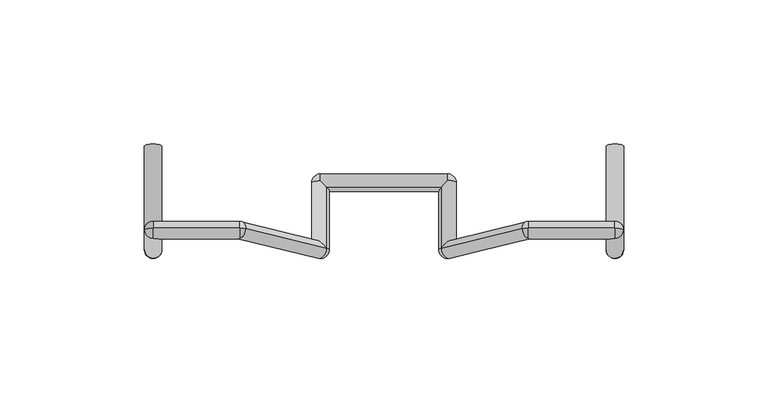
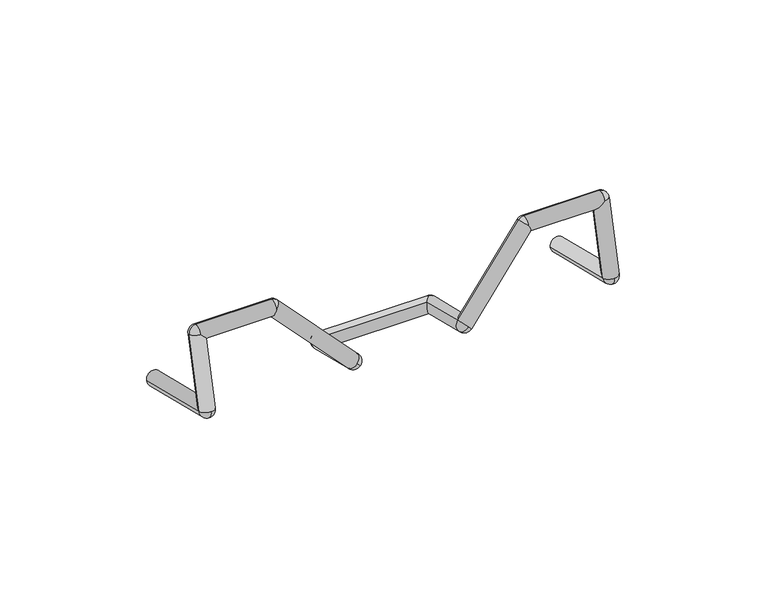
"""IFC4 building model written with IfcOpenShell, lengths in millimetres: furniture geometry."""

from ifc_helpers import new_model, si_unit, point, frame, origin, place, context, project, spatial, circle_curve, ellipse_curve, trimmed, source, transform, mapped, element, save
from ifc_brep_helpers import plane_surface, cylinder_surface, revolved_surface, advanced_brep


def furniture_9b158ec6(model_context):
    return source(origin(), model_context, "Body", "AdvancedBrep", [
        advanced_brep(
        [(-79.9995394, -261.9406341, 451.0660528), (-79.9995394, -264.144767, 454.6912146), (-82.9995394, -261.2301197, 453.9807002), (-82.9995394, -254.3618134, 482.1556247), (-79.9995394, -253.651299, 485.070272), (-79.9995394, -251.4471661, 481.4451102), (-50.0045138, -253.651299, 485.070272), (-47.8464944, -253.8682486, 484.1803088), (-50.0045138, -251.4471661, 481.4451102), (-21.9995394, -264.144767, 454.6912146), (-19.9155642, -261.741221, 451.8840783), (-19.84152, -260.7365549, 456.0053844), (-24.9995394, -237.9129408, 448.2965847), (-21.9995394, -234.9982934, 447.5860702), (-21.9995394, -236.3098837, 445.7607992), (-21.9995394, -238.6234552, 445.3819373), (-24.1575588, -238.4065056, 446.2719005), (22.0004606, -234.9982934, 447.5860702), (25.0004606, -237.9129408, 448.2965847), (24.15848, -238.4065056, 446.2719005), (22.0004606, -238.6234552, 445.3819373), (22.0004606, -236.3098837, 445.7607992), (19.9164855, -261.741221, 451.8840783), (22.0004606, -264.144767, 454.6912146), (19.8424412, -260.7365549, 456.0053844), (47.8474157, -253.8682486, 484.1803088), (50.0054351, -253.651299, 485.070272), (50.0054351, -251.4471661, 481.4451102), (80.0004606, -253.651299, 485.070272), (83.0004606, -254.3618134, 482.1556247), (80.0004606, -251.4471661, 481.4451102), (80.0004606, -264.144767, 454.6912146), (80.0004606, -261.9406341, 451.0660528), (83.0004606, -261.2301197, 453.9807002), (-82.9995394, -225.2828022, 445.2176888), (-76.9995394, -225.2828022, 445.2176888), (-76.9995394, -261.2301197, 453.9807002), (-76.9995394, -255.0723279, 479.2409773), (-79.9995394, -257.2764608, 482.8661391), (-51.2779383, -255.0723279, 479.2409773), (-50.0045138, -257.2764608, 482.8661391), (-24.1575588, -261.7236845, 451.956016), (-19.84152, -239.5159978, 450.8323702), (19.8424412, -239.5159978, 450.8323702), (24.15848, -261.7236845, 451.956016), (51.2788596, -255.0723279, 479.2409773), (50.0054351, -257.2764608, 482.8661391), (77.0004606, -255.0723279, 479.2409773), (80.0004606, -257.2764608, 482.8661391), (77.0004606, -261.2301197, 453.9807002), (83.0004606, -225.2828022, 445.2176888), (77.0004606, -225.2828022, 445.2176888), (22.0004606, -237.2024264, 451.211232), (-21.9995394, -237.2024264, 451.211232)],
        [
            (0, 1, circle_curve(frame((-79.9995394, -261.2301197, 453.9807002), z_axis=(-1.0, 0.0, 0.0), x_axis=(0.0, 0.23683814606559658, 0.9715491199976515)), 3.0)),
            (1, 2, circle_curve(frame((-79.9995394, -261.2301197, 453.9807002), z_axis=(0.0, -0.23683814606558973, -0.9715491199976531), x_axis=(0.0, -0.9715491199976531, 0.23683814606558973)), 3.0)),
            (2, 0, circle_curve(frame((-79.9995394, -261.2301197, 453.9807002), z_axis=(0.0, -0.9715491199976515, 0.2368381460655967), x_axis=(0.0, -0.2368381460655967, -0.9715491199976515)), 3.0)),
            (3, 4, circle_curve(frame((-79.9995394, -254.3618134, 482.1556247), z_axis=(0.0, 0.971549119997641, -0.23683814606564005), x_axis=(1.0, 0.0, 0.0)), 3.0)),
            (4, 5, circle_curve(frame((-79.9995394, -254.3618134, 482.1556247), z_axis=(-1.0, 0.0, 0.0), x_axis=(0.0, 0.23683814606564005, 0.971549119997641)), 3.0)),
            (5, 3, circle_curve(frame((-79.9995394, -254.3618134, 482.1556247), z_axis=(0.0, 0.23683814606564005, 0.971549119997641), x_axis=(-1.0, 0.0, 0.0)), 3.0)),
            (6, 7, circle_curve(frame((-50.0045138, -254.3618134, 482.1556247), z_axis=(0.0, 0.971549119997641, -0.23683814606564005), x_axis=(0.0, -0.23683814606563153, -0.971549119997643)), 3.0)),
            (7, 8, circle_curve(frame((-50.0045138, -254.3618134, 482.1556247), z_axis=(-0.6946583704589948, 0.17036710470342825, 0.6988739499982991), x_axis=(0.7193398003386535, 0.16452160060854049, 0.6748947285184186)), 3.0)),
            (8, 6, circle_curve(frame((-50.0045138, -254.3618134, 482.1556247), z_axis=(1.0, 0.0, 0.0), x_axis=(0.0, 0.23683814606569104, 0.9715491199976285)), 3.0)),
            (9, 10, circle_curve(frame((-21.9995394, -261.2301197, 453.9807002), z_axis=(0.7193398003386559, 0.16452160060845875, 0.6748947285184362), x_axis=(0.0, 0.971549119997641, -0.23683814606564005)), 3.0)),
            (10, 11, circle_curve(frame((-21.9995394, -261.2301197, 453.9807002), z_axis=(0.0, -0.9715491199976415, 0.2368381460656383), x_axis=(0.6946583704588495, -0.17036710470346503, -0.6988739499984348)), 3.0)),
            (11, 9, circle_curve(frame((-21.9995394, -261.2301197, 453.9807002), z_axis=(0.6946583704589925, -0.17036710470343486, -0.6988739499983), x_axis=(0.0, -0.9715491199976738, 0.2368381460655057)), 3.0)),
            (12, 13, circle_curve(frame((-21.9995394, -237.9129408, 448.2965847), z_axis=(0.0, -0.23683814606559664, -0.9715491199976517), x_axis=(-1.0, 0.0, 0.0)), 3.0)),
            (13, 14, circle_curve(frame((-21.9995394, -237.9129408, 448.2965847), z_axis=(-1.0, 0.0, 0.0), x_axis=(0.0, 0.9715491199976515, -0.23683814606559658)), 3.0)),
            (14, 15, circle_curve(frame((-21.9995394, -237.9129408, 448.2965847), z_axis=(-1.0, 0.0, 0.0), x_axis=(0.0, 0.9715491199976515, -0.23683814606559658)), 3.0)),
            (15, 16, circle_curve(frame((-21.9995394, -237.9129408, 448.2965847), z_axis=(0.0, 0.9715491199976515, -0.23683814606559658), x_axis=(-1.0, 0.0, 0.0)), 3.0)),
            (16, 12, circle_curve(frame((-21.9995394, -237.9129408, 448.2965847), z_axis=(0.0, 0.9715491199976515, -0.23683814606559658), x_axis=(-1.0, 0.0, 0.0)), 3.0)),
            (17, 18, circle_curve(frame((22.0004606, -237.9129408, 448.2965847), z_axis=(0.0, -0.23683814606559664, -0.9715491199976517), x_axis=(0.0, -0.971549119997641, 0.23683814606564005)), 3.0)),
            (18, 19, circle_curve(frame((22.0004606, -237.9129408, 448.2965847), z_axis=(0.0, 0.971549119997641, -0.23683814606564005), x_axis=(1.0, 0.0, 0.0)), 3.0)),
            (19, 20, circle_curve(frame((22.0004606, -237.9129408, 448.2965847), z_axis=(0.0, 0.971549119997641, -0.23683814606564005), x_axis=(1.0, 0.0, 0.0)), 3.0)),
            (20, 21, circle_curve(frame((22.0004606, -237.9129408, 448.2965847), z_axis=(1.0, 0.0, 0.0), x_axis=(0.0, 0.9715491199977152, -0.23683814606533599)), 3.0)),
            (21, 17, circle_curve(frame((22.0004606, -237.9129408, 448.2965847), z_axis=(1.0, 0.0, 0.0), x_axis=(0.0, 0.9715491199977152, -0.23683814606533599)), 3.0)),
            (22, 23, circle_curve(frame((22.0004606, -261.2301197, 453.9807002), z_axis=(-0.7193398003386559, 0.16452160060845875, 0.6748947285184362), x_axis=(-0.6946583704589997, -0.17036710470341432, -0.6988739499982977)), 3.0)),
            (23, 24, circle_curve(frame((22.0004606, -261.2301197, 453.9807002), z_axis=(-0.6946583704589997, -0.17036710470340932, -0.6988739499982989), x_axis=(0.0, -0.9715491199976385, 0.23683814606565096)), 3.0)),
            (24, 22, circle_curve(frame((22.0004606, -261.2301197, 453.9807002), z_axis=(-3.5409316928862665e-11, -0.9715491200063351, 0.23683814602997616), x_axis=(-0.6946583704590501, -0.1703671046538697, -0.6988739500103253)), 3.0)),
            (25, 26, circle_curve(frame((50.0054351, -254.3618134, 482.1556247), z_axis=(0.0, 0.971549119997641, -0.23683814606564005), x_axis=(-0.7193398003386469, 0.16452160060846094, 0.6748947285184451)), 3.0)),
            (26, 27, circle_curve(frame((50.0054351, -254.3618134, 482.1556247), z_axis=(-1.0, 0.0, 0.0), x_axis=(0.0, 0.2368381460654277, 0.9715491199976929)), 3.0)),
            (27, 25, circle_curve(frame((50.0054351, -254.3618134, 482.1556247), z_axis=(0.6946583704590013, 0.17036710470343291, 0.6988739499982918), x_axis=(-0.7193398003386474, 0.16452160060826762, 0.6748947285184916)), 3.0)),
            (28, 29, circle_curve(frame((80.0004606, -254.3618134, 482.1556247), z_axis=(0.0, 0.971549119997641, -0.23683814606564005), x_axis=(0.0, 0.23683814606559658, 0.9715491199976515)), 3.0)),
            (29, 30, circle_curve(frame((80.0004606, -254.3618134, 482.1556247), z_axis=(0.0, 0.23683814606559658, 0.9715491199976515), x_axis=(1.0, 0.0, 0.0)), 3.0)),
            (30, 28, circle_curve(frame((80.0004606, -254.3618134, 482.1556247), z_axis=(1.0, 0.0, -2.6767436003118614e-12), x_axis=(2.7551294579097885e-12, 0.23683814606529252, 0.9715491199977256)), 3.0)),
            (31, 32, circle_curve(frame((80.0004606, -261.2301197, 453.9807002), z_axis=(1.0, 0.0, 0.0), x_axis=(0.0, -0.971549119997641, 0.23683814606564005)), 3.0)),
            (32, 33, circle_curve(frame((80.0004606, -261.2301197, 453.9807002), z_axis=(0.0, -0.9715491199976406, 0.23683814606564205), x_axis=(0.0, -0.23683814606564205, -0.9715491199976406)), 3.0)),
            (33, 31, circle_curve(frame((80.0004606, -261.2301197, 453.9807002), z_axis=(0.0, -0.2368381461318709, -0.9715491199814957), x_axis=(0.0, -0.9715491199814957, 0.2368381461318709)), 3.0)),
            (2, 34),
            (34, 35, circle_curve(frame((-79.9995394, -225.2828022, 445.2176888), z_axis=(0.0, -0.9715491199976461, 0.23683814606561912), x_axis=(-1.0, 0.0, 0.0)), 3.0)),
            (35, 36),
            (36, 0, circle_curve(frame((-79.9995394, -261.2301197, 453.9807002), z_axis=(0.0, 0.9715491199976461, -0.23683814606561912), x_axis=(-1.0, 0.0, 0.0)), 3.0)),
            (3, 2),
            (1, 36, circle_curve(frame((-79.9995394, -261.2301197, 453.9807002), z_axis=(0.0, 0.23683814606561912, 0.9715491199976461), x_axis=(-1.0, 0.0, 0.0)), 3.0)),
            (36, 37),
            (37, 38, ellipse_curve(frame((-79.9995394, -254.3618134, 482.1556247), z_axis=(-0.7071067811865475, -0.1674698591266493, -0.6869889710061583), x_axis=(0.7071067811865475, -0.1674698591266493, -0.6869889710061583)), 4.2426407, 3.0)),
            (38, 3, circle_curve(frame((-79.9995394, -254.3618134, 482.1556247), z_axis=(0.0, -0.23683814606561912, -0.9715491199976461), x_axis=(-1.0, 0.0, 0.0)), 3.0)),
            (6, 4),
            (4, 38, circle_curve(frame((-79.9995394, -254.3618134, 482.1556247), z_axis=(1.0, 0.0, 0.0), x_axis=(0.0, 0.23683814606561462, 0.9715491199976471)), 3.0)),
            (37, 39),
            (39, 40, ellipse_curve(frame((-50.0045138, -254.3618134, 482.1556247), z_axis=(-0.9205048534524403, 0.09254003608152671, 0.37961448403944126), x_axis=(-0.3907311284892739, -0.21801066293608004, -0.8943156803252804)), 3.2590811, 3.0)),
            (40, 6, circle_curve(frame((-50.0045138, -254.3618134, 482.1556247), z_axis=(-1.0, 0.0, 0.0), x_axis=(0.0, 0.23683814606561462, 0.9715491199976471)), 3.0)),
            (11, 7),
            (7, 40, circle_curve(frame((-50.0045138, -254.3618134, 482.1556247), z_axis=(0.694658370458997, -0.17036710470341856, -0.6988739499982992), x_axis=(0.7193398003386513, 0.16452160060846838, 0.6748947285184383)), 3.0)),
            (39, 41),
            (41, 9, circle_curve(frame((-21.9995394, -261.2301197, 453.9807002), z_axis=(-0.694658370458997, 0.17036710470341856, 0.6988739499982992), x_axis=(0.7193398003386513, 0.16452160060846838, 0.6748947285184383)), 3.0)),
            (42, 11),
            (10, 41, circle_curve(frame((-21.9995394, -261.2301197, 453.9807002), z_axis=(0.0, 0.9715491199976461, -0.23683814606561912), x_axis=(0.719339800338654, 0.16452160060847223, 0.6748947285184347)), 3.0)),
            (41, 16),
            (15, 42, ellipse_curve(frame((-21.9995394, -237.9129408, 448.2965847), z_axis=(-0.7071067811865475, -0.6869889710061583, 0.1674698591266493), x_axis=(0.7071067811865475, -0.6869889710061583, 0.1674698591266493)), 4.2426407, 3.0)),
            (43, 42),
            (14, 21),
            (20, 43, ellipse_curve(frame((22.0004606, -237.9129408, 448.2965847), z_axis=(-0.7071067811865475, 0.6869889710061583, -0.16746985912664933), x_axis=(-0.7071067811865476, -0.6869889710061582, 0.1674698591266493)), 4.2426407, 3.0)),
            (24, 43),
            (19, 44),
            (44, 22, circle_curve(frame((22.0004606, -261.2301197, 453.9807002), z_axis=(0.0, 0.9715491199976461, -0.23683814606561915), x_axis=(-0.7193398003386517, 0.16452160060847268, 0.6748947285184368)), 3.0)),
            (25, 24),
            (23, 44, circle_curve(frame((22.0004606, -261.2301197, 453.9807002), z_axis=(0.6946583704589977, 0.17036710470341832, 0.6988739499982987), x_axis=(-0.7193398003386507, 0.16452160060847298, 0.674894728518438)), 3.0)),
            (44, 45),
            (45, 46, ellipse_curve(frame((50.0054351, -254.3618134, 482.1556247), z_axis=(-0.9205048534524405, -0.09254003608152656, -0.37961448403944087), x_axis=(0.3907311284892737, -0.21801066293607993, -0.8943156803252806)), 3.2590811, 3.0)),
            (46, 25, circle_curve(frame((50.0054351, -254.3618134, 482.1556247), z_axis=(-0.6946583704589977, -0.17036710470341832, -0.6988739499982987), x_axis=(-0.7193398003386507, 0.16452160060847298, 0.674894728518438)), 3.0)),
            (28, 26),
            (26, 46, circle_curve(frame((50.0054351, -254.3618134, 482.1556247), z_axis=(1.0, 0.0, 0.0), x_axis=(0.0, 0.236838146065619, 0.9715491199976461)), 3.0)),
            (45, 47),
            (47, 48, ellipse_curve(frame((80.0004606, -254.3618134, 482.1556247), z_axis=(-0.7071067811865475, 0.1674698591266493, 0.6869889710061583), x_axis=(-0.7071067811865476, -0.16746985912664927, -0.6869889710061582)), 4.2426407, 3.0)),
            (48, 28, circle_curve(frame((80.0004606, -254.3618134, 482.1556247), z_axis=(-1.0, 0.0, 0.0), x_axis=(0.0, 0.236838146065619, 0.9715491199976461)), 3.0)),
            (33, 29),
            (29, 48, circle_curve(frame((80.0004606, -254.3618134, 482.1556247), z_axis=(0.0, -0.23683814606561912, -0.9715491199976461), x_axis=(1.0, 0.0, 0.0)), 3.0)),
            (47, 49),
            (49, 31, circle_curve(frame((80.0004606, -261.2301197, 453.9807002), z_axis=(0.0, 0.23683814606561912, 0.9715491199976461), x_axis=(1.0, 0.0, 0.0)), 3.0)),
            (50, 33),
            (32, 49, circle_curve(frame((80.0004606, -261.2301197, 453.9807002), z_axis=(0.0, 0.9715491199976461, -0.23683814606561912), x_axis=(1.0, 0.0, 0.0)), 3.0)),
            (49, 51),
            (51, 50, circle_curve(frame((80.0004606, -225.2828022, 445.2176888), z_axis=(0.0, -0.9715491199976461, 0.23683814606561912), x_axis=(1.0, 0.0, 0.0)), 3.0)),
            (51, 50, circle_curve(frame((80.0004606, -225.2828022, 445.2176888), z_axis=(0.0, 0.9715491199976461, -0.23683814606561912), x_axis=(1.0, 0.0, 0.0)), 3.0)),
            (49, 33, ellipse_curve(frame((80.0004606, -261.2301197, 453.9807002), z_axis=(0.0, 0.5195191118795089, -0.8544588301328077), x_axis=(0.0, -0.8544588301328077, -0.5195191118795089)), 4.2426407, 3.0)),
            (47, 30, ellipse_curve(frame((80.0004606, -254.3618134, 482.1556247), z_axis=(0.7071067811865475, -0.1674698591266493, -0.6869889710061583), x_axis=(0.7071067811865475, 0.1674698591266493, 0.6869889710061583)), 4.2426407, 3.0)),
            (45, 27, ellipse_curve(frame((50.0054351, -254.3618134, 482.1556247), z_axis=(0.9205048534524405, 0.09254003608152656, 0.37961448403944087), x_axis=(-0.39073112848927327, 0.21801066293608, 0.894315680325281)), 3.2590811, 3.0)),
            (44, 24, ellipse_curve(frame((22.0004606, -261.2301197, 453.9807002), z_axis=(0.49119764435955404, -0.5665212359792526, 0.6616483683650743), x_axis=(-0.4911976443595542, -0.8074567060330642, -0.3267086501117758)), 4.2426407, 3.0)),
            (18, 52, circle_curve(frame((22.0004606, -237.9129408, 448.2965847), z_axis=(0.0, -0.9715491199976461, 0.23683814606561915), x_axis=(-0.7193398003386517, 0.16452160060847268, 0.6748947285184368)), 3.0)),
            (52, 43, ellipse_curve(frame((22.0004606, -237.9129408, 448.2965847), z_axis=(0.7071067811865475, -0.6869889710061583, 0.16746985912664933), x_axis=(0.7071067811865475, 0.6869889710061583, -0.16746985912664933)), 4.2426407, 3.0)),
            (17, 52, circle_curve(frame((22.0004606, -237.9129408, 448.2965847), z_axis=(1.0, 0.0, 0.0), x_axis=(0.0, 0.9715491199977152, -0.23683814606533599)), 3.0)),
            (13, 53, circle_curve(frame((-21.9995394, -237.9129408, 448.2965847), z_axis=(1.0, 0.0, 0.0), x_axis=(0.0, -0.534352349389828, 0.8452618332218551)), 3.0)),
            (53, 42, ellipse_curve(frame((-21.9995394, -237.9129408, 448.2965847), z_axis=(0.7071067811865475, 0.6869889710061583, -0.1674698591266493), x_axis=(-0.7071067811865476, 0.6869889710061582, -0.16746985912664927)), 4.2426407, 3.0)),
            (12, 53, circle_curve(frame((-21.9995394, -237.9129408, 448.2965847), z_axis=(0.0, 0.9715491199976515, -0.23683814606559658), x_axis=(-1.0, 0.0, 0.0)), 3.0)),
            (41, 11, ellipse_curve(frame((-21.9995394, -261.2301197, 453.9807002), z_axis=(0.49119764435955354, 0.5665212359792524, -0.6616483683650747), x_axis=(0.4911976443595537, -0.8074567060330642, -0.32670865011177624)), 4.2426407, 3.0)),
            (39, 8, ellipse_curve(frame((-50.0045138, -254.3618134, 482.1556247), z_axis=(0.9205048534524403, -0.09254003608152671, -0.37961448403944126), x_axis=(0.3907311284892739, 0.21801066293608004, 0.8943156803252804)), 3.2590811, 3.0)),
            (37, 5, ellipse_curve(frame((-79.9995394, -254.3618134, 482.1556247), z_axis=(0.7071067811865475, 0.1674698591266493, 0.6869889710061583), x_axis=(-0.7071067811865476, 0.16746985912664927, 0.6869889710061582)), 4.2426407, 3.0)),
            (36, 2, ellipse_curve(frame((-79.9995394, -261.2301197, 453.9807002), z_axis=(0.0, -0.5195191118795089, 0.8544588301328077), x_axis=(0.0, -0.8544588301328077, -0.5195191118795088)), 4.2426407, 3.0)),
            (35, 34, circle_curve(frame((-79.9995394, -225.2828022, 445.2176888), z_axis=(0.0, -0.9715491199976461, 0.23683814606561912), x_axis=(-1.0, 0.0, 0.0)), 3.0)),
        ],
        [
            revolved_surface(trimmed(ellipse_curve(frame((-79.9995394, -261.2301197, 453.9807002), z_axis=(0.0, -0.9715491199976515, 0.23683814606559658), x_axis=(0.0, 0.23683814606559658, 0.9715491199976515)), 3.0, 3.0), [point((-79.9995394, -260.5196052, 456.8953475))], [point((-82.9995394, -261.2301197, 453.9807002))], True, "CARTESIAN"), (-79.9995394, -261.2301197, 453.9807002), (-1.0, 0.0, 0.0)),
            revolved_surface(trimmed(ellipse_curve(frame((-79.9995394, -254.3618134, 482.1556247), z_axis=(0.0, 0.23683814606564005, 0.971549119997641), x_axis=(1.0, 0.0, 0.0)), 3.0, 3.0), [point((-76.9995394, -254.3618134, 482.1556247))], [point((-79.9995394, -251.4471661, 481.4451102))], True, "CARTESIAN"), (-79.9995394, -254.3618134, 482.1556247), (0.0, 0.971549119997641, -0.23683814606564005)),
            revolved_surface(trimmed(ellipse_curve(frame((-50.0045138, -254.3618134, 482.1556247), z_axis=(1.0, 0.0, 0.0), x_axis=(0.0, -0.23683814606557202, -0.9715491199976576)), 3.0, 3.0), [point((-50.0045138, -255.0723279, 479.2409773))], [point((-50.0045138, -251.4471661, 481.4451102))], True, "CARTESIAN"), (-50.0045138, -254.3618134, 482.1556247), (0.0, 0.971549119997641, -0.23683814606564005)),
            revolved_surface(trimmed(ellipse_curve(frame((-21.9995394, -261.2301197, 453.9807002), z_axis=(0.6946583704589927, -0.1703671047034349, -0.6988739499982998), x_axis=(0.0, 0.9715491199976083, -0.23683814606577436)), 3.0, 3.0), [point((-21.9995394, -258.3154723, 453.2701857))], [point((-19.84152, -260.7365549, 456.0053844))], True, "CARTESIAN"), (-21.9995394, -261.2301197, 453.9807002), (0.7193398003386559, 0.16452160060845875, 0.6748947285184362)),
            revolved_surface(trimmed(ellipse_curve(frame((-21.9995394, -237.9129408, 448.2965847), z_axis=(0.0, -0.9715491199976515, 0.23683814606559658), x_axis=(-1.0, 0.0, 0.0)), 3.0, 3.0), [point((-24.9995394, -237.9129408, 448.2965847))], [point((-21.9995394, -238.6234552, 445.3819373))], True, "CARTESIAN"), (-21.9995394, -237.9129408, 448.2965847), (0.0, -0.23683814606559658, -0.9715491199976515)),
            revolved_surface(trimmed(ellipse_curve(frame((22.0004606, -237.9129408, 448.2965847), z_axis=(1.0, 0.0, 0.0), x_axis=(0.0, -0.9715491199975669, 0.2368381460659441)), 3.0, 3.0), [point((22.0004606, -240.8275882, 449.0070991))], [point((22.0004606, -238.6234552, 445.3819373))], True, "CARTESIAN"), (22.0004606, -237.9129408, 448.2965847), (0.0, -0.23683814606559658, -0.9715491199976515)),
            revolved_surface(trimmed(ellipse_curve(frame((22.0004606, -261.2301197, 453.9807002), z_axis=(0.0, 0.9715491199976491, -0.23683814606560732), x_axis=(-0.6946583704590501, -0.17036710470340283, -0.6988739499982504)), 3.0, 3.0), [point((19.9164855, -261.741221, 451.8840783))], [point((19.8424412, -260.7365549, 456.0053844))], True, "CARTESIAN"), (22.0004606, -261.2301197, 453.9807002), (-0.7193398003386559, 0.16452160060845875, 0.6748947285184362)),
            revolved_surface(trimmed(ellipse_curve(frame((50.0054351, -254.3618134, 482.1556247), z_axis=(-0.6946583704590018, -0.17036710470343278, -0.6988739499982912), x_axis=(-0.7193398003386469, 0.16452160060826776, 0.6748947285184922)), 3.0, 3.0), [point((47.8474157, -253.8682486, 484.1803088))], [point((50.0054351, -251.4471661, 481.4451102))], True, "CARTESIAN"), (50.0054351, -254.3618134, 482.1556247), (0.0, 0.971549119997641, -0.23683814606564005)),
            revolved_surface(trimmed(ellipse_curve(frame((80.0004606, -254.3618134, 482.1556247), z_axis=(-1.0, 0.0, 0.0), x_axis=(0.0, 0.23683814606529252, 0.9715491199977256)), 3.0, 3.0), [point((80.0004606, -253.651299, 485.070272))], [point((80.0004606, -251.4471661, 481.4451102))], True, "CARTESIAN"), (80.0004606, -254.3618134, 482.1556247), (0.0, 0.971549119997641, -0.23683814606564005)),
            revolved_surface(trimmed(ellipse_curve(frame((80.0004606, -261.2301197, 453.9807002), z_axis=(0.0, 0.23683814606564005, 0.971549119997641), x_axis=(0.0, -0.971549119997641, 0.23683814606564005)), 3.0, 3.0), [point((80.0004606, -264.144767, 454.6912146))], [point((83.0004606, -261.2301197, 453.9807002))], True, "CARTESIAN"), (80.0004606, -261.2301197, 453.9807002), (1.0, 0.0, 0.0)),
            cylinder_surface(frame((-79.9995394, -225.2828022, 445.2176888), z_axis=(0.0, 0.9715491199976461, -0.23683814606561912), x_axis=(-1.0, 0.0, 0.0)), 3.0),
            cylinder_surface(frame((-79.9995394, -261.2301197, 453.9807002), z_axis=(0.0, -0.23683814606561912, -0.9715491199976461), x_axis=(-1.0, 0.0, 0.0)), 3.0),
            cylinder_surface(frame((-79.9995394, -254.3618134, 482.1556247), z_axis=(-1.0, 0.0, 0.0), x_axis=(0.0, 0.23683814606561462, 0.9715491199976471)), 3.0),
            cylinder_surface(frame((-50.0045138, -254.3618134, 482.1556247), z_axis=(-0.694658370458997, 0.17036710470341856, 0.6988739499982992), x_axis=(0.7193398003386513, 0.16452160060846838, 0.6748947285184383)), 3.0),
            cylinder_surface(frame((-21.9995394, -261.2301197, 453.9807002), z_axis=(0.0, -0.9715491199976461, 0.23683814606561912), x_axis=(0.719339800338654, 0.16452160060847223, 0.6748947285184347)), 3.0),
            cylinder_surface(frame((-21.9995394, -237.9129408, 448.2965847), z_axis=(-1.0, 0.0, 0.0), x_axis=(0.0, -0.534352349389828, 0.8452618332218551)), 3.0),
            cylinder_surface(frame((22.0004606, -237.9129408, 448.2965847), z_axis=(0.0, 0.9715491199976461, -0.23683814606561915), x_axis=(-0.7193398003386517, 0.16452160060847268, 0.6748947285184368)), 3.0),
            cylinder_surface(frame((22.0004606, -261.2301197, 453.9807002), z_axis=(-0.6946583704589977, -0.17036710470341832, -0.6988739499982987), x_axis=(-0.7193398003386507, 0.16452160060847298, 0.674894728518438)), 3.0),
            cylinder_surface(frame((50.0054351, -254.3618134, 482.1556247), z_axis=(-1.0, 0.0, 0.0), x_axis=(0.0, 0.236838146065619, 0.9715491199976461)), 3.0),
            cylinder_surface(frame((80.0004606, -254.3618134, 482.1556247), z_axis=(0.0, 0.23683814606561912, 0.9715491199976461), x_axis=(1.0, 0.0, 0.0)), 3.0),
            cylinder_surface(frame((80.0004606, -261.2301197, 453.9807002), z_axis=(0.0, -0.9715491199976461, 0.23683814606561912), x_axis=(1.0, 0.0, 0.0)), 3.0),
            plane_surface(frame((80.0004606, -225.2828022, 445.2176888), z_axis=(0.0, 0.9715491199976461, -0.23683814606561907), x_axis=(0.0, 0.23683814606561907, 0.9715491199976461))),
            revolved_surface(trimmed(ellipse_curve(frame((80.0004606, -261.2301197, 453.9807002), z_axis=(0.0, 0.23683814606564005, 0.971549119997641), x_axis=(0.0, -0.971549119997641, 0.23683814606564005)), 3.0, 3.0), [point((77.0004606, -261.2301197, 453.9807002))], [point((80.0004606, -264.144767, 454.6912146))], True, "CARTESIAN"), (80.0004606, -261.2301197, 453.9807002), (1.0, 0.0, 0.0)),
            revolved_surface(trimmed(ellipse_curve(frame((80.0004606, -254.3618134, 482.1556247), z_axis=(-1.0, 0.0, 0.0), x_axis=(0.0, 0.23683814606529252, 0.9715491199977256)), 3.0, 3.0), [point((80.0004606, -257.2764608, 482.8661391))], [point((80.0004606, -253.651299, 485.070272))], True, "CARTESIAN"), (80.0004606, -254.3618134, 482.1556247), (0.0, 0.971549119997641, -0.23683814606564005)),
            revolved_surface(trimmed(ellipse_curve(frame((50.0054351, -254.3618134, 482.1556247), z_axis=(-0.6946583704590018, -0.17036710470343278, -0.6988739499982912), x_axis=(-0.7193398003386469, 0.16452160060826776, 0.6748947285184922)), 3.0, 3.0), [point((50.0054351, -257.2764608, 482.8661391))], [point((47.8474157, -253.8682486, 484.1803088))], True, "CARTESIAN"), (50.0054351, -254.3618134, 482.1556247), (0.0, 0.971549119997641, -0.23683814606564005)),
            revolved_surface(trimmed(ellipse_curve(frame((22.0004606, -261.2301197, 453.9807002), z_axis=(0.0, 0.9715491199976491, -0.23683814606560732), x_axis=(-0.6946583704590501, -0.17036710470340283, -0.6988739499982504)), 3.0, 3.0), [point((24.15848, -261.7236845, 451.956016))], [point((19.9164855, -261.741221, 451.8840783))], True, "CARTESIAN"), (22.0004606, -261.2301197, 453.9807002), (-0.7193398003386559, 0.16452160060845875, 0.6748947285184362)),
            revolved_surface(trimmed(ellipse_curve(frame((22.0004606, -237.9129408, 448.2965847), z_axis=(1.0, 0.0, 0.0), x_axis=(0.0, -0.9715491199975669, 0.2368381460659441)), 3.0, 3.0), [point((22.0004606, -237.2024264, 451.211232))], [point((22.0004606, -240.8275882, 449.0070991))], True, "CARTESIAN"), (22.0004606, -237.9129408, 448.2965847), (0.0, -0.23683814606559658, -0.9715491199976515)),
            revolved_surface(trimmed(ellipse_curve(frame((-21.9995394, -237.9129408, 448.2965847), z_axis=(0.0, -0.9715491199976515, 0.23683814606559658), x_axis=(-1.0, 0.0, 0.0)), 3.0, 3.0), [point((-21.9995394, -237.2024264, 451.211232))], [point((-24.9995394, -237.9129408, 448.2965847))], True, "CARTESIAN"), (-21.9995394, -237.9129408, 448.2965847), (0.0, -0.23683814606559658, -0.9715491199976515)),
            revolved_surface(trimmed(ellipse_curve(frame((-21.9995394, -261.2301197, 453.9807002), z_axis=(0.6946583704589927, -0.1703671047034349, -0.6988739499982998), x_axis=(0.0, 0.9715491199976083, -0.23683814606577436)), 3.0, 3.0), [point((-24.1575588, -261.7236845, 451.956016))], [point((-21.9995394, -258.3154723, 453.2701857))], True, "CARTESIAN"), (-21.9995394, -261.2301197, 453.9807002), (0.7193398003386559, 0.16452160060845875, 0.6748947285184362)),
            revolved_surface(trimmed(ellipse_curve(frame((-50.0045138, -254.3618134, 482.1556247), z_axis=(1.0, 0.0, 0.0), x_axis=(0.0, -0.23683814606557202, -0.9715491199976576)), 3.0, 3.0), [point((-50.0045138, -257.2764608, 482.8661391))], [point((-50.0045138, -255.0723279, 479.2409773))], True, "CARTESIAN"), (-50.0045138, -254.3618134, 482.1556247), (0.0, 0.971549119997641, -0.23683814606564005)),
            revolved_surface(trimmed(ellipse_curve(frame((-79.9995394, -254.3618134, 482.1556247), z_axis=(0.0, 0.23683814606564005, 0.971549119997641), x_axis=(1.0, 0.0, 0.0)), 3.0, 3.0), [point((-79.9995394, -257.2764608, 482.8661391))], [point((-76.9995394, -254.3618134, 482.1556247))], True, "CARTESIAN"), (-79.9995394, -254.3618134, 482.1556247), (0.0, 0.971549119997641, -0.23683814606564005)),
            revolved_surface(trimmed(ellipse_curve(frame((-79.9995394, -261.2301197, 453.9807002), z_axis=(0.0, -0.9715491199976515, 0.23683814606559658), x_axis=(0.0, 0.23683814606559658, 0.9715491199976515)), 3.0, 3.0), [point((-76.9995394, -261.2301197, 453.9807002))], [point((-79.9995394, -260.5196052, 456.8953475))], True, "CARTESIAN"), (-79.9995394, -261.2301197, 453.9807002), (-1.0, 0.0, 0.0)),
            plane_surface(frame((-79.9995394, -225.2828022, 445.2176888), z_axis=(0.0, 0.9715491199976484, -0.23683814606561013), x_axis=(0.0, 0.23683814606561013, 0.9715491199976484))),
        ],
        [
            (0, [[1, 2, 3]]),
            (1, [[4, 5, 6]]),
            (2, [[7, 8, 9]]),
            (3, [[10, 11, 12]]),
            (4, [[13, 14, 15, 16, 17]]),
            (5, [[18, 19, 20, 21, 22]]),
            (6, [[23, 24, 25]]),
            (7, [[26, 27, 28]]),
            (8, [[29, 30, 31]]),
            (9, [[32, 33, 34]]),
            (10, [[35, 36, 37, 38, -3]]),
            (11, [[39, -2, 40, 41, 42, 43]]),
            (12, [[44, 45, -42, 46, 47, 48]]),
            (13, [[49, 50, -47, 51, 52, -12]]),
            (14, [[53, -11, 54, 55, -16, 56]]),
            (15, [[57, -56, -15, 58, -21, 59]]),
            (16, [[60, -59, -20, 61, 62, -25]]),
            (17, [[63, -24, 64, 65, 66, 67]]),
            (18, [[68, 69, -66, 70, 71, 72]]),
            (19, [[73, 74, -71, 75, 76, -34]]),
            (20, [[77, -33, 78, 79, 80]]),
            (21, [[-80, 81]]),
            (22, [[-32, -76, -78]]),
            (20, [[-77, -81, -79, 82]]),
            (19, [[-73, -82, -75, 83, -30]]),
            (23, [[-29, -72, -74]]),
            (18, [[-68, -31, -83, -70, 84, -27]]),
            (24, [[-26, -67, -69]]),
            (17, [[-63, -28, -84, -65, 85]]),
            (25, [[-23, -62, -64]]),
            (16, [[-60, -85, -61, -19, 86, 87]]),
            (26, [[-18, 88, -86]]),
            (15, [[-57, -87, -88, -22, -58, -14, 89, 90]]),
            (27, [[-13, 91, -89]]),
            (14, [[-53, -90, -91, -17, -55, 92]]),
            (28, [[-10, -52, -54]]),
            (13, [[-49, -92, -51, 93, -8]]),
            (29, [[-7, -48, -50]]),
            (12, [[-44, -9, -93, -46, 94, -5]]),
            (30, [[-4, -43, -45]]),
            (11, [[-39, -6, -94, -41, 95]]),
            (31, [[-1, -38, -40]]),
            (10, [[-35, -95, -37, 96]]),
            (32, [[-36, -96]]),
        ],
    ),
    ])


if __name__ == "__main__":
    model = new_model("IFC4")
    model_context = context("Model", 3, world=origin())
    ifc_project = project(units=[si_unit("LENGTHUNIT", "METRE", prefix="MILLI")], contexts=[model_context])
    site = spatial("IfcSite", under=ifc_project)
    building = spatial("IfcBuilding", under=site)
    placement = place(None, origin())
    furniture_shape = furniture_9b158ec6(model_context)
    element("IfcFurniture", 1, at=placement, inside=building, context=model_context, shape_type="MappedRepresentation", body=[
        mapped(furniture_shape, transform((0.0, 0.0, 0.0), x_axis=(1.0, 0.0, 0.0), y_axis=(0.0, 1.0, 0.0), z_axis=(0.0, 0.0, 1.0))),
    ])
    save(model, "model.ifc")
